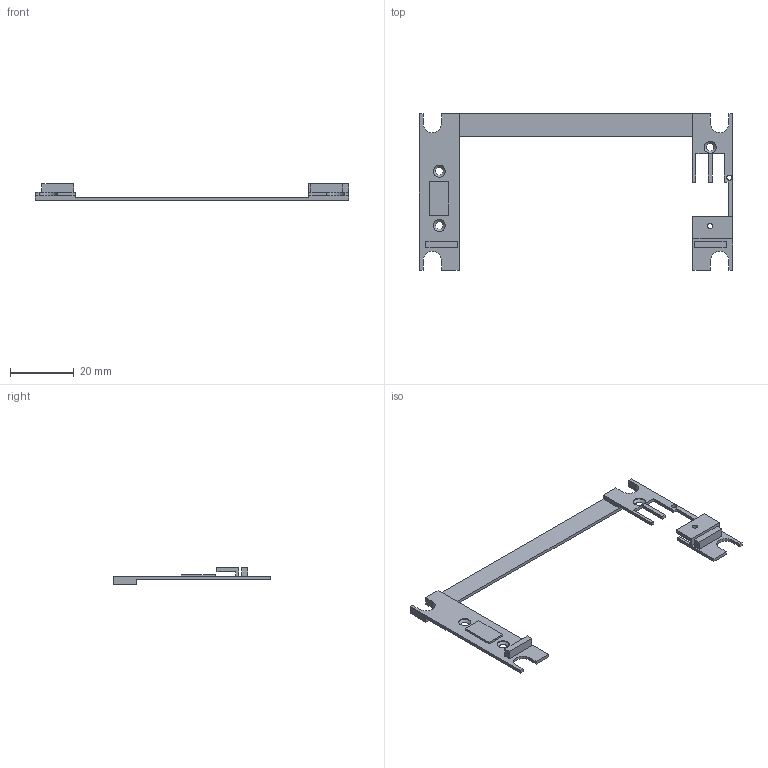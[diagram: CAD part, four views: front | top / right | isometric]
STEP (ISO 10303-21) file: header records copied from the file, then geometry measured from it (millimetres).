
FILE_DESCRIPTION(('FreeCAD Model'),'2;1');
FILE_NAME('Open CASCADE Shape Model','2026-11-12T17:34:40',('FreeCAD'),( 'FreeCAD'),'Open CASCADE STEP processor 7.8','FreeCAD','Unknown');
FILE_SCHEMA(('AUTOMOTIVE_DESIGN { 1 0 10303 214 1 1 1 1 }'));
Length unit declared in the file: millimetre
Products named in the file (1): Open CASCADE STEP translator 7.8 1
Bounding box: 98 x 49 x 5.3 mm (x, y, z)
Volume: 1763.9 mm3; surface area: 3758.3 mm2
Topology: 1 solids, 1 shells, 82 faces, 233 edges, 153 vertices
Faces by surface type: plane 70, cylinder 9, cone 3
Full cylindrical faces by diameter (mm): 1.6 x2, 3.8 x3
Entity records: 2660 total; most frequent: CARTESIAN_POINT 469, ORIENTED_EDGE 466, DIRECTION 420, EDGE_CURVE 233, LINE 212, VECTOR 212, VERTEX_POINT 153, AXIS2_PLACEMENT_3D 104
